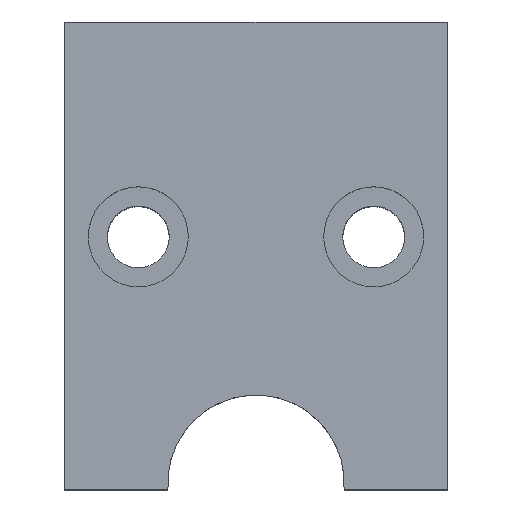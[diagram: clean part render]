
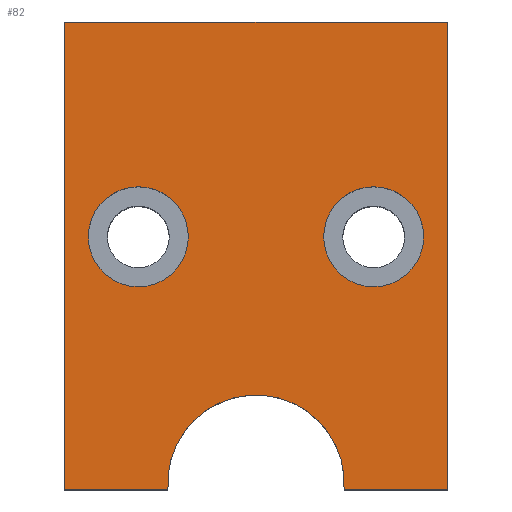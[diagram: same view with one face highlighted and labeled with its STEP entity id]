
A CAD part, top view. The second image highlights one B-rep face of the part: STEP entity #82.
In plain terms, the highlighted planar face has unit normal (0, 0, 1).
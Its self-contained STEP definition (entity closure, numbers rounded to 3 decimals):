
#82 = ADVANCED_FACE( '', ( #108, #109, #110 ), #111, .T. );
#108 = FACE_BOUND( '', #150, .T. );
#109 = FACE_BOUND( '', #151, .T. );
#110 = FACE_OUTER_BOUND( '', #152, .T. );
#111 = PLANE( '', #153 );
#150 = EDGE_LOOP( '', ( #233 ) );
#151 = EDGE_LOOP( '', ( #234 ) );
#152 = EDGE_LOOP( '', ( #235, #236, #237, #238, #239, #240 ) );
#153 = AXIS2_PLACEMENT_3D( '', #241, #242, #243 );
#233 = ORIENTED_EDGE( '', *, *, #311, .T. );
#234 = ORIENTED_EDGE( '', *, *, #312, .T. );
#235 = ORIENTED_EDGE( '', *, *, #313, .T. );
#236 = ORIENTED_EDGE( '', *, *, #314, .T. );
#237 = ORIENTED_EDGE( '', *, *, #288, .T. );
#238 = ORIENTED_EDGE( '', *, *, #301, .T. );
#239 = ORIENTED_EDGE( '', *, *, #304, .T. );
#240 = ORIENTED_EDGE( '', *, *, #296, .T. );
#241 = CARTESIAN_POINT( '', ( -45.684, -27.536, 0. ) );
#242 = DIRECTION( '', ( 0., 0., 1. ) );
#243 = DIRECTION( '', ( 1., 0., 0. ) );
#288 = EDGE_CURVE( '', #320, #321, #322, .T. );
#296 = EDGE_CURVE( '', #337, #335, #338, .T. );
#301 = EDGE_CURVE( '', #321, #345, #347, .T. );
#304 = EDGE_CURVE( '', #345, #337, #350, .T. );
#311 = EDGE_CURVE( '', #360, #360, #361, .T. );
#312 = EDGE_CURVE( '', #362, #362, #363, .T. );
#313 = EDGE_CURVE( '', #335, #364, #365, .T. );
#314 = EDGE_CURVE( '', #364, #320, #366, .T. );
#320 = VERTEX_POINT( '', #376 );
#321 = VERTEX_POINT( '', #377 );
#322 = LINE( '', #378, #379 );
#335 = VERTEX_POINT( '', #398 );
#337 = VERTEX_POINT( '', #401 );
#338 = LINE( '', #402, #403 );
#345 = VERTEX_POINT( '', #413 );
#347 = LINE( '', #416, #417 );
#350 = LINE( '', #422, #423 );
#360 = VERTEX_POINT( '', #436 );
#361 = CIRCLE( '', #437, 8.5 );
#362 = VERTEX_POINT( '', #438 );
#363 = CIRCLE( '', #439, 8.5 );
#364 = VERTEX_POINT( '', #440 );
#365 = LINE( '', #441, #442 );
#366 = CIRCLE( '', #443, 15. );
#376 = CARTESIAN_POINT( '', ( 1.774, -27.536, 0. ) );
#377 = CARTESIAN_POINT( '', ( 19.316, -27.536, 0. ) );
#378 = CARTESIAN_POINT( '', ( -45.684, -27.536, 0. ) );
#379 = VECTOR( '', #454, 1000. );
#398 = CARTESIAN_POINT( '', ( -45.684, -27.536, 0. ) );
#401 = CARTESIAN_POINT( '', ( -45.684, 51.964, 0. ) );
#402 = CARTESIAN_POINT( '', ( -45.684, 22.464, 0. ) );
#403 = VECTOR( '', #462, 1000. );
#413 = CARTESIAN_POINT( '', ( 19.316, 51.964, 0. ) );
#416 = CARTESIAN_POINT( '', ( 19.316, -27.536, 0. ) );
#417 = VECTOR( '', #467, 1000. );
#422 = CARTESIAN_POINT( '', ( 19.316, 51.964, 0. ) );
#423 = VECTOR( '', #470, 1000. );
#436 = CARTESIAN_POINT( '', ( -33.184, 6.964, 0. ) );
#437 = AXIS2_PLACEMENT_3D( '', #483, #484, #485 );
#438 = CARTESIAN_POINT( '', ( 6.816, 6.964, 0. ) );
#439 = AXIS2_PLACEMENT_3D( '', #486, #487, #488 );
#440 = CARTESIAN_POINT( '', ( -28.142, -27.536, 0. ) );
#441 = CARTESIAN_POINT( '', ( -45.684, -27.536, 0. ) );
#442 = VECTOR( '', #489, 1000. );
#443 = AXIS2_PLACEMENT_3D( '', #490, #491, #492 );
#454 = DIRECTION( '', ( 1., 0., 0. ) );
#462 = DIRECTION( '', ( 0., -1., 0. ) );
#467 = DIRECTION( '', ( 0., 1., 0. ) );
#470 = DIRECTION( '', ( -1., 0., 0. ) );
#483 = CARTESIAN_POINT( '', ( -33.184, 15.464, 0. ) );
#484 = DIRECTION( '', ( 0., 0., -1. ) );
#485 = DIRECTION( '', ( 0., -1., 0. ) );
#486 = CARTESIAN_POINT( '', ( 6.816, 15.464, 0. ) );
#487 = DIRECTION( '', ( 0., 0., -1. ) );
#488 = DIRECTION( '', ( 0., -1., 0. ) );
#489 = DIRECTION( '', ( 1., 0., 0. ) );
#490 = CARTESIAN_POINT( '', ( -13.184, -26.416, 0. ) );
#491 = DIRECTION( '', ( 0., 0., -1. ) );
#492 = DIRECTION( '', ( 0., -1., 0. ) );
